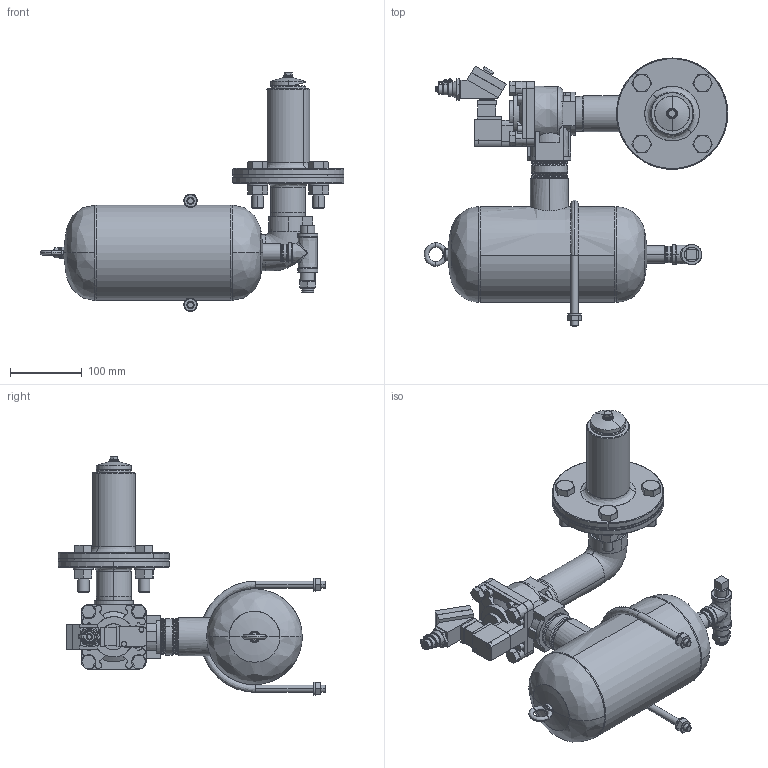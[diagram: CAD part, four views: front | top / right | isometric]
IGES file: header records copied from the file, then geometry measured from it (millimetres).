
Start section: SolidWorks IGES file using analytic representation for surfaces
Global section: file name: V:\WORK\08133\HP 寸法図\blaster\EMB1.5-3A\test_B79000H-000 EMB1.5-3A 100V_defeature.IGS,15; native system: HSolidWorks 2018; preprocessor: SolidWorks 2018; author: n-udagawa; date: 230221.093343; units: millimetre
Bounding box: 422.8 x 372.9 x 332.65 mm (x, y, z)
Surface area: 354935.5 mm2 (no closed solid volume)
Topology: 0 solids, 0 shells, 874 faces, 14670 edges, 16771 vertices
Faces by surface type: bspline 465, revolution 409
